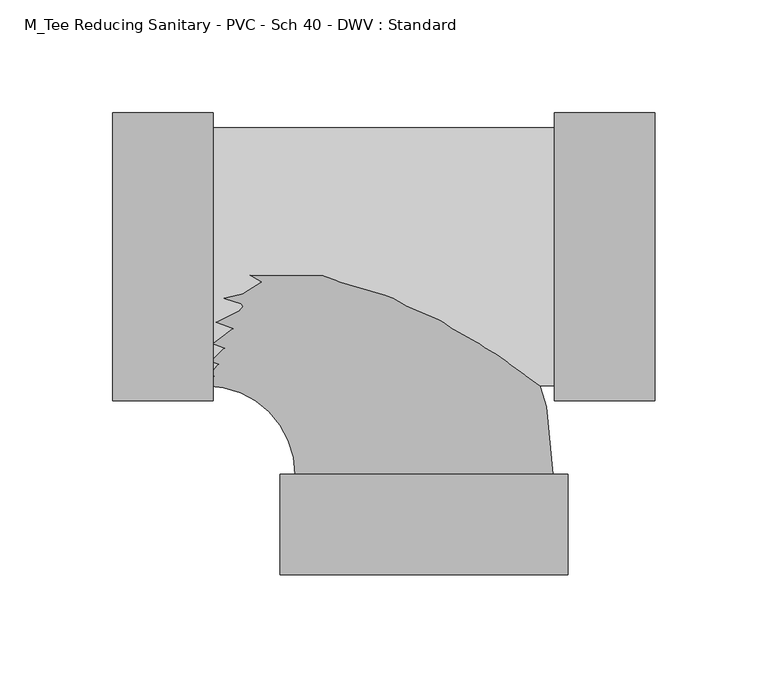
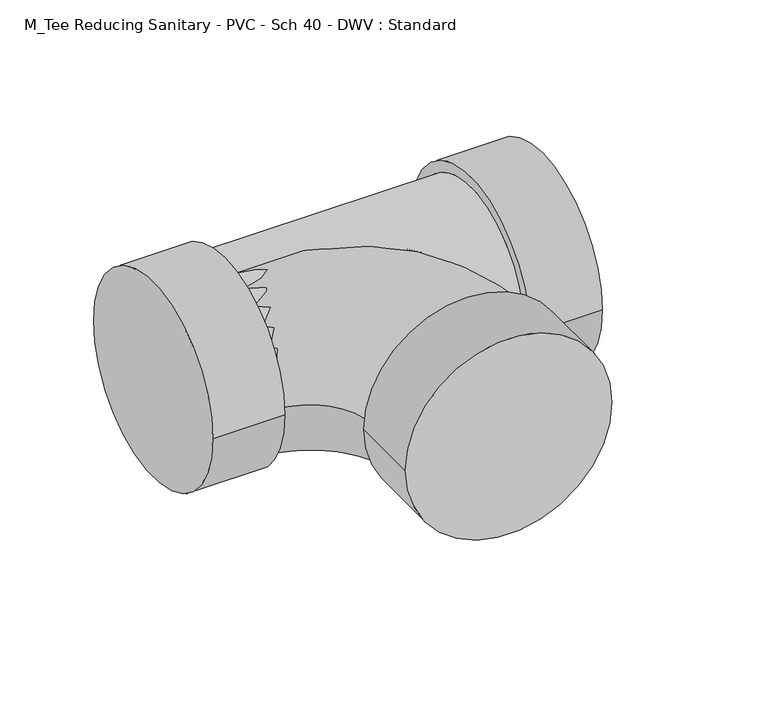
"""IFC4 building model written with IfcOpenShell, lengths in millimetres: pipe fitting geometry, M_Tee Reducing Sanitary - PVC - Sch 40 - DWV : Standard."""

from ifc_helpers import new_model, si_unit, point, frame, origin, place, context, project, spatial, circle_curve, ellipse_curve, trimmed, source, transform, mapped, element, save
from ifc_brep_helpers import plane_surface, cylinder_surface, revolved_surface, advanced_brep


def m_tee_reducing_sanitary_pvc_sch_40_dwv_standard_743e33f4(model_context):
    return source(origin(), model_context, "Body", "AdvancedBrep", [
        advanced_brep(
        [(57.822125, -63.754, 0.0), (57.822125, 63.754, 0.0), (57.822125, -57.15, 0.0), (57.822125, 57.15, 0.0), (102.272125, -63.754, 0.0), (102.272125, 63.754, 0.0), (-93.4599062, 57.15, 0.0), (-93.4599062, -57.15, 0.0), (-137.9099062, -63.754, 0.0), (-137.9099062, 63.754, 0.0), (-93.4599062, -63.754, 0.0), (-93.4599062, 63.754, 0.0)],
        [
            (0, 1, circle_curve(frame((57.822125, 0.0, 0.0), z_axis=(-1.0, 0.0, 0.0), x_axis=(0.0, 1.0, 0.0)), 63.754)),
            (1, 0, circle_curve(frame((57.822125, 0.0, 0.0), z_axis=(-1.0, 0.0, 0.0), x_axis=(0.0, 1.0, 0.0)), 63.754)),
            (2, 3, circle_curve(frame((57.822125, 0.0, 0.0), z_axis=(1.0, 0.0, 0.0), x_axis=(0.0, 0.0, -1.0)), 57.15)),
            (3, 2, circle_curve(frame((57.822125, 0.0, 0.0), z_axis=(1.0, 0.0, 0.0), x_axis=(0.0, 0.0, 1.0)), 57.15)),
            (4, 5, circle_curve(frame((102.272125, 0.0, 0.0), z_axis=(1.0, 0.0, 0.0), x_axis=(0.0, 1.0, 0.0)), 63.754)),
            (5, 4, circle_curve(frame((102.272125, 0.0, 0.0), z_axis=(1.0, 0.0, 0.0), x_axis=(0.0, 1.0, 0.0)), 63.754)),
            (0, 4),
            (5, 1),
            (6, 3),
            (2, 7),
            (7, 6, circle_curve(frame((-93.4599062, 0.0, 0.0), z_axis=(1.0, 0.0, 0.0), x_axis=(0.0, 0.0, -1.0)), 57.15)),
            (6, 7, circle_curve(frame((-93.4599062, 0.0, 0.0), z_axis=(1.0, 0.0, 0.0), x_axis=(0.0, 0.0, 1.0)), 57.15)),
            (8, 9, circle_curve(frame((-137.9099062, 0.0, 0.0), z_axis=(-1.0, 0.0, 0.0), x_axis=(0.0, 1.0, 0.0)), 63.754)),
            (9, 8, circle_curve(frame((-137.9099062, 0.0, 0.0), z_axis=(-1.0, 0.0, 0.0), x_axis=(0.0, 1.0, 0.0)), 63.754)),
            (10, 11, circle_curve(frame((-93.4599062, 0.0, 0.0), z_axis=(1.0, 0.0, 0.0), x_axis=(0.0, 1.0, 0.0)), 63.754)),
            (11, 10, circle_curve(frame((-93.4599062, 0.0, 0.0), z_axis=(1.0, 0.0, 0.0), x_axis=(0.0, 1.0, 0.0)), 63.754)),
            (8, 10),
            (11, 9),
        ],
        [
            plane_surface(frame((57.822125, 0.0, 0.0), z_axis=(-1.0, 0.0, 0.0), x_axis=(0.0, 0.0, 1.0))),
            plane_surface(frame((102.272125, 0.0, 0.0), z_axis=(1.0, 0.0, 0.0), x_axis=(0.0, 0.0, 1.0))),
            cylinder_surface(frame((57.822125, 0.0, 0.0), z_axis=(-1.0, 0.0, 0.0), x_axis=(0.0, 1.0, 0.0)), 63.754),
            cylinder_surface(frame((-93.4599062, 0.0, 0.0), z_axis=(1.0, 0.0, 0.0), x_axis=(0.0, 0.0, -1.0)), 57.15),
            cylinder_surface(frame((-93.4599062, 0.0, 0.0), z_axis=(1.0, 0.0, 0.0), x_axis=(0.0, 0.0, 1.0)), 57.15),
            plane_surface(frame((-137.9099062, 0.0, 0.0), z_axis=(-1.0, 0.0, 0.0), x_axis=(0.0, 0.0, 1.0))),
            plane_surface(frame((-93.4599062, 0.0, 0.0), z_axis=(1.0, 0.0, 0.0), x_axis=(0.0, 0.0, 1.0))),
            cylinder_surface(frame((-137.9099062, 0.0, 0.0), z_axis=(-1.0, 0.0, 0.0), x_axis=(0.0, 1.0, 0.0)), 63.754),
        ],
        [
            (0, [[1, 2], [3, 4]]),
            (1, [[5, 6]]),
            (2, [[-1, 7, -6, 8]]),
            (2, [[-2, -8, -5, -7]]),
            (3, [[9, -3, 10, 11]]),
            (4, [[-9, 12, -10, -4]]),
            (5, [[13, 14]]),
            (6, [[15, 16], [-11, -12]]),
            (7, [[-13, 17, -16, 18]]),
            (7, [[-14, -18, -15, -17]]),
        ],
    ),
        advanced_brep(
        [(-63.754, -96.3476563, 0.0), (63.754, -96.3476563, 0.0), (57.15, -96.3476563, 0.0), (-57.15, -96.3476563, 0.0), (-63.754, -140.7976563, 0.0), (63.754, -140.7976563, 0.0), (-96.3476562, -57.15, 0.0), (-96.3476562, 57.15, 0.0)],
        [
            (0, 1, circle_curve(frame((0.0, -96.3476563, 0.0), z_axis=(0.0, 1.0, 0.0), x_axis=(1.0, 0.0, 0.0)), 63.754)),
            (1, 0, circle_curve(frame((0.0, -96.3476563, 0.0), z_axis=(0.0, 1.0, 0.0), x_axis=(1.0, 0.0, 0.0)), 63.754)),
            (2, 3, circle_curve(frame((0.0, -96.3476563, 0.0), z_axis=(0.0, -1.0, 0.0), x_axis=(1.0, 0.0, 0.0)), 57.15)),
            (3, 2, circle_curve(frame((0.0, -96.3476563, 0.0), z_axis=(0.0, -1.0, 0.0), x_axis=(1.0, 0.0, 0.0)), 57.15)),
            (4, 5, circle_curve(frame((0.0, -140.7976563, 0.0), z_axis=(0.0, -1.0, 0.0), x_axis=(1.0, 0.0, 0.0)), 63.754)),
            (5, 4, circle_curve(frame((0.0, -140.7976563, 0.0), z_axis=(0.0, -1.0, 0.0), x_axis=(1.0, 0.0, 0.0)), 63.754)),
            (0, 4),
            (5, 1),
            (6, 7, circle_curve(frame((-96.3476562, 0.0, 0.0), z_axis=(-1.0, 0.0, 0.0), x_axis=(0.0, 1.0, 0.0)), 57.15)),
            (7, 6, circle_curve(frame((-96.3476562, 0.0, 0.0), z_axis=(-1.0, 0.0, 0.0), x_axis=(0.0, 1.0, 0.0)), 57.15)),
            (6, 3, circle_curve(frame((-96.3476562, -96.3476563, 0.0), z_axis=(0.0, 0.0, -1.0), x_axis=(0.0, 1.0, 0.0)), 39.1976563)),
            (2, 7, circle_curve(frame((-96.3476562, -96.3476563, 0.0), z_axis=(0.0, 0.0, 1.0), x_axis=(0.0, 1.0, 0.0)), 153.4976563)),
        ],
        [
            plane_surface(frame((0.0, -96.3476563, 0.0), z_axis=(0.0, 1.0, 0.0), x_axis=(0.0, 0.0, 1.0))),
            plane_surface(frame((0.0, -140.7976563, 0.0), z_axis=(0.0, -1.0, 0.0), x_axis=(0.0, 0.0, 1.0))),
            cylinder_surface(frame((0.0, -96.3476563, 0.0), z_axis=(0.0, 1.0, 0.0), x_axis=(1.0, 0.0, 0.0)), 63.754),
            plane_surface(frame((-96.3476562, 0.0, 0.0), z_axis=(-1.0, 0.0, 0.0), x_axis=(0.0, 0.0, 1.0))),
            revolved_surface(trimmed(ellipse_curve(frame((-96.3476562, 0.0, 0.0), z_axis=(-1.0, 0.0, 0.0), x_axis=(0.0, 1.0, 0.0)), 57.15, 57.15), [point((-96.3476562, -57.15, 0.0))], [point((-96.3476562, 57.15, 0.0))], True, "CARTESIAN"), (-96.3476562, -96.3476563, 0.0), (0.0, 0.0, -1.0)),
            revolved_surface(trimmed(ellipse_curve(frame((-96.3476562, 0.0, 0.0), z_axis=(-1.0, 0.0, 0.0), x_axis=(0.0, 1.0, 0.0)), 57.15, 57.15), [point((-96.3476562, 57.15, 0.0))], [point((-96.3476562, -57.15, 0.0))], True, "CARTESIAN"), (-96.3476562, -96.3476563, 0.0), (0.0, 0.0, -1.0)),
        ],
        [
            (0, [[1, 2], [3, 4]]),
            (1, [[5, 6]]),
            (2, [[-1, 7, -6, 8]]),
            (2, [[-2, -8, -5, -7]]),
            (3, [[9, 10]]),
            (4, [[-9, 11, -3, 12]]),
            (5, [[-10, -12, -4, -11]]),
        ],
    ),
    ])


if __name__ == "__main__":
    model = new_model("IFC4")
    model_context = context("Model", 3, world=origin())
    ifc_project = project(units=[si_unit("LENGTHUNIT", "METRE", prefix="MILLI")], contexts=[model_context])
    site = spatial("IfcSite", under=ifc_project)
    building = spatial("IfcBuilding", under=site)
    placement = place(None, origin())
    m_tee_reducing_sanitary_pvc_sch_40_dwv_standard_shape = m_tee_reducing_sanitary_pvc_sch_40_dwv_standard_743e33f4(model_context)
    element("IfcPipeFitting", 1, ObjectType="M_Tee Reducing Sanitary - PVC - Sch 40 - DWV : Standard", at=placement, inside=building, context=model_context, shape_type="MappedRepresentation", body=[
        mapped(m_tee_reducing_sanitary_pvc_sch_40_dwv_standard_shape, transform((0.0, 0.0, 0.0), x_axis=(1.0, 0.0, 0.0), y_axis=(0.0, 1.0, 0.0), z_axis=(0.0, 0.0, 1.0))),
    ])
    save(model, "model.ifc")
